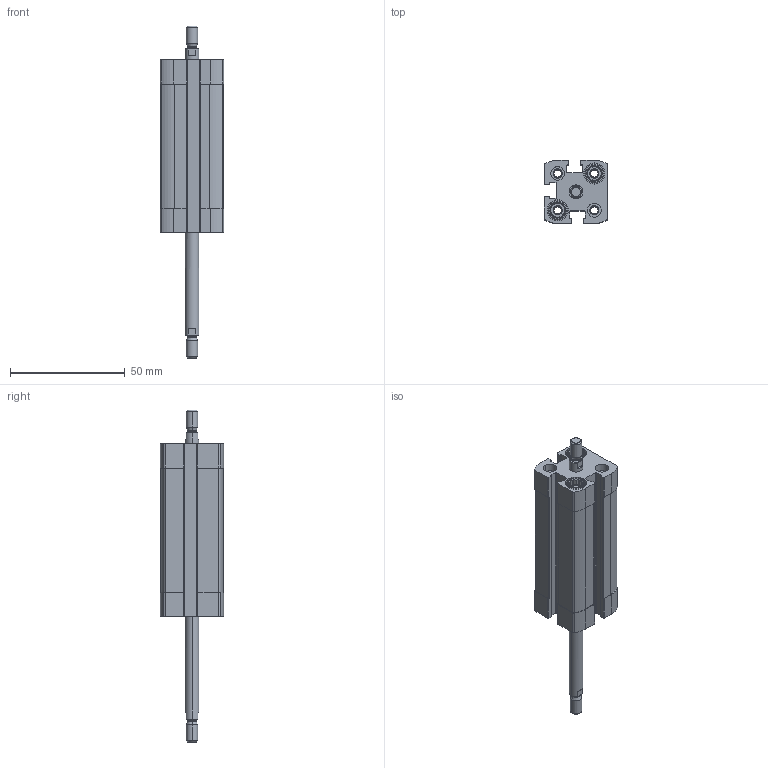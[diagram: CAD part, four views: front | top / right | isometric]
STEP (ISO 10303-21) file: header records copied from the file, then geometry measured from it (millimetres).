
FILE_DESCRIPTION (( 'STEP AP203' ), '1' );
FILE_NAME ('CCN12-40-P.STEP', '2020-06-22T18:35:13', ( '' ), ( '' ), 'SwSTEP 2.0', 'SolidWorks 2019', '' );
FILE_SCHEMA (( 'CONFIG_CONTROL_DESIGN' ));
Length unit declared in the file: millimetre
Products named in the file (1): CCN12-40-P
Bounding box: 27.5 x 27.5 x 144.5 mm (x, y, z)
Volume: 40835.6 mm3; surface area: 22070.6 mm2
Topology: 2 solids, 2 shells, 384 faces, 976 edges, 632 vertices
Faces by surface type: plane 192, cylinder 140, cone 44, torus 8
Entity records: 11783 total; most frequent: CARTESIAN_POINT 2293, DIRECTION 1986, ORIENTED_EDGE 1952, EDGE_CURVE 976, AXIS2_PLACEMENT_3D 725, VERTEX_POINT 632, LINE 536, VECTOR 536
